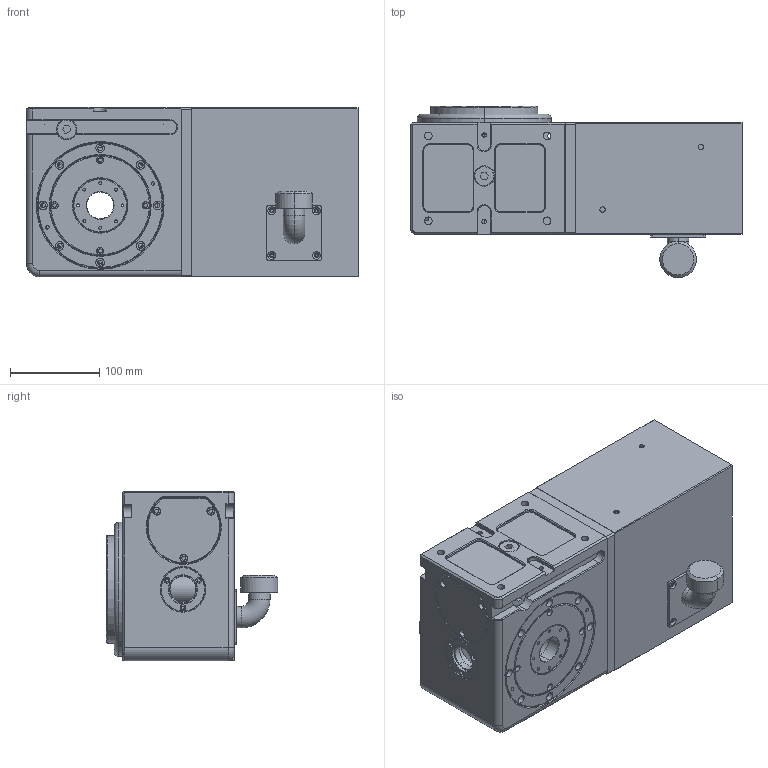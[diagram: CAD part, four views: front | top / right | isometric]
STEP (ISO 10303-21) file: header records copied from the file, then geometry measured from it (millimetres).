
FILE_DESCRIPTION (( 'STEP AP203' ), '1' );
FILE_NAME ('WDS-C120 喜渡俋夤芞 REV.02.STEP', '2022-05-28T01:53:18', ( '' ), ( '' ), 'SwSTEP 2.0', 'SolidWorks 2018', '' );
FILE_SCHEMA (( 'CONFIG_CONTROL_DESIGN' ));
Length unit declared in the file: millimetre
Products named in the file (1): WDS-C120 喜渡俋夤芞 REV.02
Bounding box: 371.5 x 191.65 x 190 mm (x, y, z)
Surface area: 532407.5 mm2 (no closed solid volume)
Topology: 0 solids, 23 shells, 605 faces, 1771 edges, 1197 vertices
Faces by surface type: cylinder 301, plane 165, cone 104, torus 35
Entity records: 20941 total; most frequent: DIRECTION 3952, CARTESIAN_POINT 3910, ORIENTED_EDGE 3053, EDGE_CURVE 1771, AXIS2_PLACEMENT_3D 1592, VERTEX_POINT 1197, CIRCLE 986, EDGE_LOOP 809
